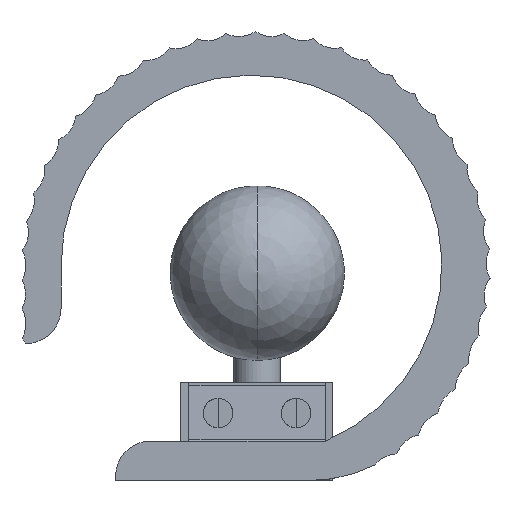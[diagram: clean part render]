
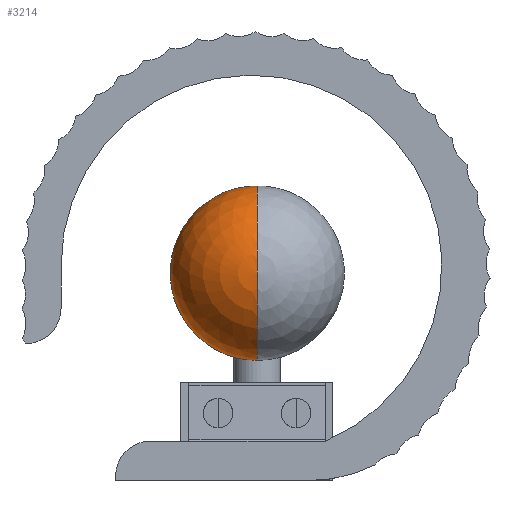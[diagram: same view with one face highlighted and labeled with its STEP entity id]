
A CAD part, left-side view. The second image highlights one B-rep face of the part: STEP entity #3214.
In plain terms, the highlighted spherical face has radius 22.328 mm.
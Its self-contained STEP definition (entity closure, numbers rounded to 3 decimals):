
#26=SPHERICAL_SURFACE('',#3510,22.328);
#32=B_SPLINE_CURVE_WITH_KNOTS('',3,(#5672,#5673,#5674,#5675,#5676,#5677,
#5678,#5679),.UNSPECIFIED.,.F.,.F.,(4,1,1,1,1,4),(0.,0.2,0.4,0.6,0.8,1.),
 .UNSPECIFIED.);
#33=B_SPLINE_CURVE_WITH_KNOTS('',3,(#5682,#5683,#5684,#5685,#5686,#5687,
#5688,#5689,#5690,#5691,#5692,#5693,#5694,#5695,#5696,#5697,#5698,#5699,
#5700,#5701,#5702,#5703,#5704,#5705,#5706,#5707,#5708,#5709,#5710,#5711,
#5712,#5713,#5714,#5715,#5716,#5717,#5718,#5719,#5720,#5721,#5722,#5723,
#5724,#5725,#5726,#5727,#5728,#5729,#5730,#5731,#5732,#5733,#5734,#5735,
#5736,#5737,#5738,#5739,#5740,#5741,#5742,#5743,#5744,#5745,#5746,#5747,
#5748,#5749,#5750,#5751,#5752,#5753,#5754,#5755,#5756,#5757,#5758,#5759,
#5760),.UNSPECIFIED.,.F.,.F.,(4,3,3,3,3,3,3,3,3,3,3,3,3,3,3,3,3,3,3,3,3,
3,3,3,3,3,4),(0.,0.039,0.078,0.117,
0.156,0.195,0.234,0.273,
0.312,0.351,0.391,0.43,
0.469,0.508,0.547,0.586,0.625,
0.664,0.703,0.742,0.781,
0.82,0.859,0.897,0.936,
0.975,1.),.UNSPECIFIED.);
#306=FACE_OUTER_BOUND('',#518,.T.);
#518=EDGE_LOOP('',(#2542,#2543,#2544));
#695=CIRCLE('',#3509,22.328);
#1467=VERTEX_POINT('',#5645);
#1468=VERTEX_POINT('',#5647);
#1469=VERTEX_POINT('',#5681);
#1849=EDGE_CURVE('',#1467,#1468,#32,.T.);
#1850=EDGE_CURVE('',#1469,#1467,#33,.T.);
#1851=EDGE_CURVE('',#1468,#1469,#695,.T.);
#2542=ORIENTED_EDGE('',*,*,#1851,.T.);
#2543=ORIENTED_EDGE('',*,*,#1850,.T.);
#2544=ORIENTED_EDGE('',*,*,#1849,.T.);
#3214=ADVANCED_FACE('',(#306),#26,.T.);
#3509=AXIS2_PLACEMENT_3D('',#5761,#4238,#4239);
#3510=AXIS2_PLACEMENT_3D('',#5762,#4240,#4241);
#4238=DIRECTION('center_axis',(-1.,0.,0.));
#4239=DIRECTION('ref_axis',(0.,0.,
-1.));
#4240=DIRECTION('center_axis',(0.,-1.,0.));
#4241=DIRECTION('ref_axis',(-1.,0.,0.));
#5645=CARTESIAN_POINT('',(3.018,-39.208,75.399));
#5647=CARTESIAN_POINT('',(3.018,-39.208,30.742));
#5672=CARTESIAN_POINT('Ctrl Pts',(3.018,-39.208,75.399));
#5673=CARTESIAN_POINT('Ctrl Pts',(-1.779,-39.208,75.564));
#5674=CARTESIAN_POINT('Ctrl Pts',(-10.942,-39.208,72.284));
#5675=CARTESIAN_POINT('Ctrl Pts',(-19.673,-39.208,60.465));
#5676=CARTESIAN_POINT('Ctrl Pts',(-19.673,-39.208,45.675));
#5677=CARTESIAN_POINT('Ctrl Pts',(-10.942,-39.208,33.856));
#5678=CARTESIAN_POINT('Ctrl Pts',(-1.779,-39.208,30.577));
#5679=CARTESIAN_POINT('Ctrl Pts',(3.018,-39.208,30.742));
#5681=CARTESIAN_POINT('',(3.018,-61.537,53.07));
#5682=CARTESIAN_POINT('Ctrl Pts',(3.018,-61.537,53.07));
#5683=CARTESIAN_POINT('Ctrl Pts',(3.018,-61.537,53.526));
#5684=CARTESIAN_POINT('Ctrl Pts',(3.018,-61.523,53.981));
#5685=CARTESIAN_POINT('Ctrl Pts',(3.018,-61.495,54.435));
#5686=CARTESIAN_POINT('Ctrl Pts',(3.018,-61.467,54.89));
#5687=CARTESIAN_POINT('Ctrl Pts',(3.018,-61.425,55.344));
#5688=CARTESIAN_POINT('Ctrl Pts',(3.018,-61.37,55.796));
#5689=CARTESIAN_POINT('Ctrl Pts',(3.018,-61.314,56.247));
#5690=CARTESIAN_POINT('Ctrl Pts',(3.018,-61.245,56.698));
#5691=CARTESIAN_POINT('Ctrl Pts',(3.018,-61.162,57.145));
#5692=CARTESIAN_POINT('Ctrl Pts',(3.018,-61.078,57.593));
#5693=CARTESIAN_POINT('Ctrl Pts',(3.018,-60.982,58.038));
#5694=CARTESIAN_POINT('Ctrl Pts',(3.018,-60.871,58.48));
#5695=CARTESIAN_POINT('Ctrl Pts',(3.018,-60.761,58.922));
#5696=CARTESIAN_POINT('Ctrl Pts',(3.018,-60.637,59.36));
#5697=CARTESIAN_POINT('Ctrl Pts',(3.018,-60.5,59.795));
#5698=CARTESIAN_POINT('Ctrl Pts',(3.018,-60.363,60.229));
#5699=CARTESIAN_POINT('Ctrl Pts',(3.018,-60.212,60.659));
#5700=CARTESIAN_POINT('Ctrl Pts',(3.018,-60.049,61.084));
#5701=CARTESIAN_POINT('Ctrl Pts',(3.018,-59.886,61.509));
#5702=CARTESIAN_POINT('Ctrl Pts',(3.018,-59.709,61.929));
#5703=CARTESIAN_POINT('Ctrl Pts',(3.018,-59.52,62.343));
#5704=CARTESIAN_POINT('Ctrl Pts',(3.018,-59.331,62.757));
#5705=CARTESIAN_POINT('Ctrl Pts',(3.018,-59.129,63.166));
#5706=CARTESIAN_POINT('Ctrl Pts',(3.018,-58.915,63.568));
#5707=CARTESIAN_POINT('Ctrl Pts',(3.018,-58.701,63.969));
#5708=CARTESIAN_POINT('Ctrl Pts',(3.018,-58.475,64.365));
#5709=CARTESIAN_POINT('Ctrl Pts',(3.018,-58.236,64.753));
#5710=CARTESIAN_POINT('Ctrl Pts',(3.018,-57.988,65.157));
#5711=CARTESIAN_POINT('Ctrl Pts',(3.018,-57.727,65.554));
#5712=CARTESIAN_POINT('Ctrl Pts',(3.018,-57.453,65.942));
#5713=CARTESIAN_POINT('Ctrl Pts',(3.018,-57.191,66.314));
#5714=CARTESIAN_POINT('Ctrl Pts',(3.018,-56.917,66.678));
#5715=CARTESIAN_POINT('Ctrl Pts',(3.018,-56.632,67.033));
#5716=CARTESIAN_POINT('Ctrl Pts',(3.018,-56.347,67.388));
#5717=CARTESIAN_POINT('Ctrl Pts',(3.018,-56.052,67.735));
#5718=CARTESIAN_POINT('Ctrl Pts',(3.018,-55.746,68.072));
#5719=CARTESIAN_POINT('Ctrl Pts',(3.018,-55.44,68.41));
#5720=CARTESIAN_POINT('Ctrl Pts',(3.018,-55.124,68.737));
#5721=CARTESIAN_POINT('Ctrl Pts',(3.018,-54.798,69.055));
#5722=CARTESIAN_POINT('Ctrl Pts',(3.018,-54.472,69.373));
#5723=CARTESIAN_POINT('Ctrl Pts',(3.018,-54.136,69.681));
#5724=CARTESIAN_POINT('Ctrl Pts',(3.018,-53.791,69.979));
#5725=CARTESIAN_POINT('Ctrl Pts',(3.018,-53.446,70.276));
#5726=CARTESIAN_POINT('Ctrl Pts',(3.018,-53.092,70.563));
#5727=CARTESIAN_POINT('Ctrl Pts',(3.018,-52.73,70.839));
#5728=CARTESIAN_POINT('Ctrl Pts',(3.018,-52.368,71.114));
#5729=CARTESIAN_POINT('Ctrl Pts',(3.018,-51.997,71.379));
#5730=CARTESIAN_POINT('Ctrl Pts',(3.018,-51.618,71.632));
#5731=CARTESIAN_POINT('Ctrl Pts',(3.018,-51.24,71.885));
#5732=CARTESIAN_POINT('Ctrl Pts',(3.018,-50.853,72.127));
#5733=CARTESIAN_POINT('Ctrl Pts',(3.018,-50.46,72.356));
#5734=CARTESIAN_POINT('Ctrl Pts',(3.018,-50.067,72.586));
#5735=CARTESIAN_POINT('Ctrl Pts',(3.018,-49.667,72.803));
#5736=CARTESIAN_POINT('Ctrl Pts',(3.018,-49.26,73.008));
#5737=CARTESIAN_POINT('Ctrl Pts',(3.018,-48.853,73.213));
#5738=CARTESIAN_POINT('Ctrl Pts',(3.018,-48.44,73.406));
#5739=CARTESIAN_POINT('Ctrl Pts',(3.018,-48.022,73.585));
#5740=CARTESIAN_POINT('Ctrl Pts',(3.018,-47.604,73.765));
#5741=CARTESIAN_POINT('Ctrl Pts',(3.018,-47.18,73.932));
#5742=CARTESIAN_POINT('Ctrl Pts',(3.018,-46.751,74.086));
#5743=CARTESIAN_POINT('Ctrl Pts',(3.018,-46.323,74.24));
#5744=CARTESIAN_POINT('Ctrl Pts',(3.018,-45.889,74.381));
#5745=CARTESIAN_POINT('Ctrl Pts',(3.018,-45.452,74.508));
#5746=CARTESIAN_POINT('Ctrl Pts',(3.018,-45.015,74.635));
#5747=CARTESIAN_POINT('Ctrl Pts',(3.018,-44.574,74.749));
#5748=CARTESIAN_POINT('Ctrl Pts',(3.018,-44.13,74.85));
#5749=CARTESIAN_POINT('Ctrl Pts',(3.018,-43.686,74.95));
#5750=CARTESIAN_POINT('Ctrl Pts',(3.018,-43.238,75.037));
#5751=CARTESIAN_POINT('Ctrl Pts',(3.018,-42.789,75.11));
#5752=CARTESIAN_POINT('Ctrl Pts',(3.018,-42.339,75.183));
#5753=CARTESIAN_POINT('Ctrl Pts',(3.018,-41.888,75.242));
#5754=CARTESIAN_POINT('Ctrl Pts',(3.018,-41.435,75.287));
#5755=CARTESIAN_POINT('Ctrl Pts',(3.018,-40.982,75.333));
#5756=CARTESIAN_POINT('Ctrl Pts',(3.018,-40.527,75.364));
#5757=CARTESIAN_POINT('Ctrl Pts',(3.018,-40.072,75.382));
#5758=CARTESIAN_POINT('Ctrl Pts',(3.018,-39.784,75.393));
#5759=CARTESIAN_POINT('Ctrl Pts',(3.018,-39.496,75.399));
#5760=CARTESIAN_POINT('Ctrl Pts',(3.018,-39.208,75.399));
#5761=CARTESIAN_POINT('Origin',(3.018,-39.208,53.07));
#5762=CARTESIAN_POINT('Origin',(3.018,-39.208,53.07));
